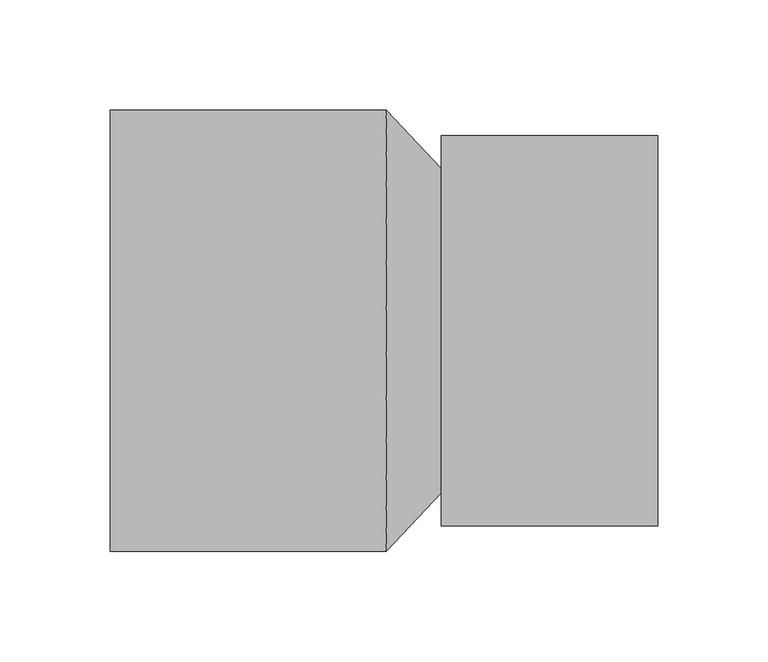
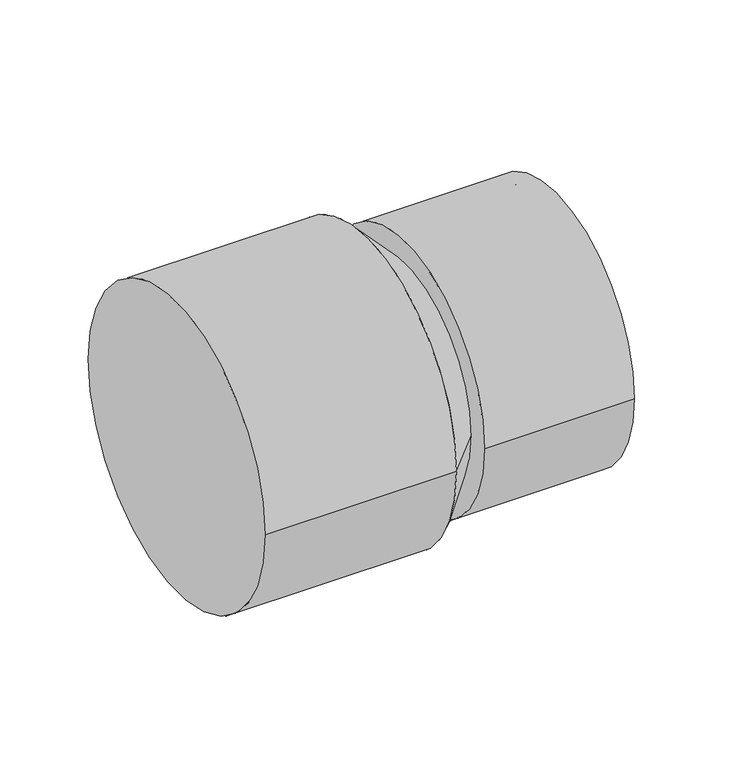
"""IFC4 building model written with IfcOpenShell, lengths in millimetres: pipe fitting geometry, Pipelife - Pragma OD - Redukcja kanalizacyjna : Pipelife - Pragma OD - Redukcja kanalizacyjna."""

from ifc_helpers import new_model, si_unit, point, frame, origin, origin_2d, place, context, project, spatial, polyline, circle_curve, trimmed, segment, composite_curve, outline, extrude, source, transform, mapped, element, save
from ifc_brep_helpers import plane_surface, cylinder_surface, revolved_surface, advanced_brep


def pipe_fitting_23aedb06(model_context):
    return source(origin(), model_context, "Body", "SolidModel", [
        advanced_brep(
        [(40.0, -88.5, 0.0), (40.0, 88.5, 0.0), (138.0, -88.5, 0.0), (138.0, 88.5, 0.0), (138.0, -80.5, 0.0), (138.0, 80.5, 0.0), (44.0, -80.5, 0.0), (44.0, 80.5, 0.0)],
        [
            (0, 1, circle_curve(frame((40.0, 0.0, 0.0), z_axis=(-1.0, 0.0, 0.0), x_axis=(0.0, 1.0, 0.0)), 88.5)),
            (1, 0, circle_curve(frame((40.0, 0.0, 0.0), z_axis=(-1.0, 0.0, 0.0), x_axis=(0.0, 1.0, 0.0)), 88.5)),
            (2, 3, circle_curve(frame((138.0, 0.0, 0.0), z_axis=(1.0, 0.0, 0.0), x_axis=(0.0, 1.0, 0.0)), 88.5)),
            (3, 2, circle_curve(frame((138.0, 0.0, 0.0), z_axis=(1.0, 0.0, 0.0), x_axis=(0.0, 1.0, 0.0)), 88.5)),
            (4, 5, circle_curve(frame((138.0, 0.0, 0.0), z_axis=(-1.0, 0.0, 0.0), x_axis=(0.0, 1.0, 0.0)), 80.5)),
            (5, 4, circle_curve(frame((138.0, 0.0, 0.0), z_axis=(-1.0, 0.0, 0.0), x_axis=(0.0, 1.0, 0.0)), 80.5)),
            (0, 2),
            (3, 1),
            (6, 7, circle_curve(frame((44.0, 0.0, 0.0), z_axis=(1.0, 0.0, 0.0), x_axis=(0.0, 1.0, 0.0)), 80.5)),
            (7, 6, circle_curve(frame((44.0, 0.0, 0.0), z_axis=(1.0, 0.0, 0.0), x_axis=(0.0, 1.0, 0.0)), 80.5)),
            (7, 5),
            (4, 6),
        ],
        [
            plane_surface(frame((40.0, 0.0, 0.0), z_axis=(-1.0, 0.0, 0.0), x_axis=(0.0, 0.0, 1.0))),
            plane_surface(frame((138.0, 0.0, 0.0), z_axis=(1.0, 0.0, 0.0), x_axis=(0.0, 0.0, 1.0))),
            cylinder_surface(frame((40.0, 0.0, 0.0), z_axis=(-1.0, 0.0, 0.0), x_axis=(0.0, 1.0, 0.0)), 88.5),
            plane_surface(frame((44.0, 0.0, 0.0), z_axis=(1.0, 0.0, 0.0), x_axis=(0.0, 0.0, 1.0))),
            revolved_surface(polyline([(44.0, 80.5, 0.0), (138.0, 80.5, 0.0)]), (44.0, 0.0, 0.0), (-1.0, 0.0, 0.0)),
        ],
        [
            (0, [[1, 2]]),
            (1, [[3, 4], [5, 6]]),
            (2, [[-1, 7, -4, 8]]),
            (2, [[-2, -8, -3, -7]]),
            (3, [[9, 10]]),
            (4, [[-10, 11, -5, 12]]),
            (4, [[-9, -12, -6, -11]]),
        ],
    ),
        extrude(outline(composite_curve([segment(trimmed(circle_curve(origin_2d(), 100.0), [point((-100.0, 0.0))], [point((100.0, 0.0))], False, "CARTESIAN"), True, "CONTINUOUS"), segment(trimmed(circle_curve(origin_2d(), 100.0), [point((100.0, 0.0))], [point((-100.0, 0.0))], False, "CARTESIAN"), True, "CONTINUOUS")], self_intersect=False)), frame((-110.0, 0.0, 0.0), z_axis=(1.0, 0.0, 0.0), x_axis=(0.0, 1.0, 0.0)), (0.0, 0.0, 1.0), 125.0),
        advanced_brep(
        [(40.0, -73.5, 0.0), (40.0, 73.5, 0.0), (15.0, -100.0, 0.0), (15.0, 100.0, 0.0)],
        [
            (0, 1, circle_curve(frame((40.0, 0.0, 0.0), z_axis=(1.0, 0.0, 0.0), x_axis=(0.0, -1.0, 0.0)), 73.5)),
            (1, 0, circle_curve(frame((40.0, 0.0, 0.0), z_axis=(1.0, 0.0, 0.0), x_axis=(0.0, 1.0, 0.0)), 73.5)),
            (2, 3, circle_curve(frame((15.0, 0.0, 0.0), z_axis=(-1.0, 0.0, 0.0), x_axis=(0.0, 1.0, 0.0)), 100.0)),
            (3, 2, circle_curve(frame((15.0, 0.0, 0.0), z_axis=(-1.0, 0.0, 0.0), x_axis=(0.0, -1.0, 0.0)), 100.0)),
            (3, 1),
            (0, 2),
        ],
        [
            plane_surface(frame((40.0, 0.0, 0.0), z_axis=(1.0, 0.0, 0.0), x_axis=(0.0, 0.0, 1.0))),
            plane_surface(frame((15.0, 0.0, 0.0), z_axis=(-1.0, 0.0, 0.0), x_axis=(0.0, 0.0, 1.0))),
            revolved_surface(polyline([(40.0, -73.49999998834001, 0.0), (15.0, -100.0, 0.0)]), (109.3396226, 0.0, 0.0), (-1.0, 0.0, 0.0)),
            revolved_surface(polyline([(40.0, 73.49999998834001, 0.0), (15.0, 100.0, 0.0)]), (109.3396226, 0.0, 0.0), (-1.0, 0.0, 0.0)),
        ],
        [
            (0, [[1, 2]]),
            (1, [[3, 4]]),
            (2, [[-4, 5, -1, 6]]),
            (3, [[-3, -6, -2, -5]]),
        ],
    ),
    ])


if __name__ == "__main__":
    model = new_model("IFC4")
    model_context = context("Model", 3, world=origin())
    ifc_project = project(units=[si_unit("LENGTHUNIT", "METRE", prefix="MILLI")], contexts=[model_context])
    site = spatial("IfcSite", under=ifc_project)
    building = spatial("IfcBuilding", under=site)
    placement = place(None, origin())
    pipe_fitting_shape = pipe_fitting_23aedb06(model_context)
    element("IfcPipeFitting", 1, ObjectType="Pipelife - Pragma OD - Redukcja kanalizacyjna : Pipelife - Pragma OD - Redukcja kanalizacyjna", at=placement, inside=building, context=model_context, shape_type="MappedRepresentation", body=[
        mapped(pipe_fitting_shape, transform((0.0, 0.0, 0.0), x_axis=(1.0, 0.0, 0.0), y_axis=(0.0, 1.0, 0.0), z_axis=(0.0, 0.0, 1.0))),
    ])
    save(model, "model.ifc")
